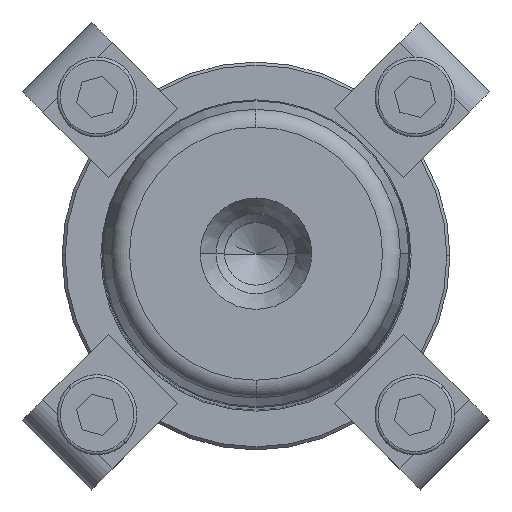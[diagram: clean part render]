
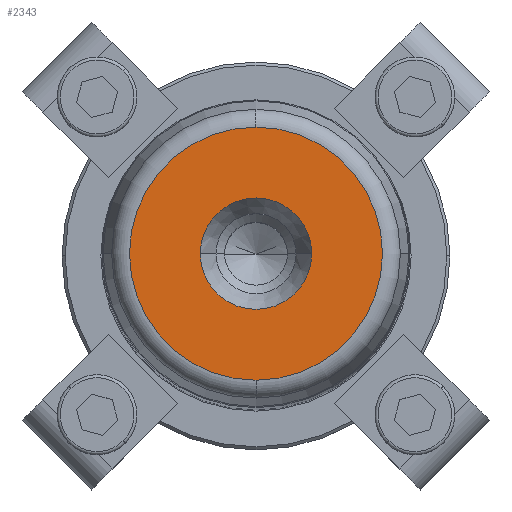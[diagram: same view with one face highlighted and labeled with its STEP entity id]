
A CAD part, top view. The second image highlights one B-rep face of the part: STEP entity #2343.
In plain terms, the highlighted planar face has unit normal (0, 0, 1).
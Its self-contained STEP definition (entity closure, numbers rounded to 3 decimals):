
#431=CARTESIAN_POINT('',(9.05,0.,220.0));
#432=VERTEX_POINT('',#431);
#439=CARTESIAN_POINT('',(-9.05,0.,220.0));
#440=VERTEX_POINT('',#439);
#441=CARTESIAN_POINT('',(0.0,0.,220.0));
#442=DIRECTION('',(0.0,0.0,1.0));
#443=DIRECTION('',(1.0,0.0,0.0));
#444=AXIS2_PLACEMENT_3D('',#441,#442,#443);
#445=CIRCLE('',#444,9.05);
#446=EDGE_CURVE('',#432,#440,#445,.T.);
#463=CARTESIAN_POINT('',(0.0,-20.554,220.0));
#464=VERTEX_POINT('',#463);
#474=CARTESIAN_POINT('',(0.,20.554,220.0));
#475=VERTEX_POINT('',#474);
#476=CARTESIAN_POINT('',(0.0,0.,220.0));
#477=DIRECTION('',(0.0,0.0,1.0));
#478=DIRECTION('',(1.0,0.0,0.0));
#479=AXIS2_PLACEMENT_3D('',#476,#477,#478);
#480=CIRCLE('',#479,20.554);
#481=EDGE_CURVE('',#475,#464,#480,.T.);
#2304=CARTESIAN_POINT('',(20.554,0.,220.0));
#2305=VERTEX_POINT('',#2304);
#2306=CARTESIAN_POINT('',(0.0,0.,220.0));
#2307=DIRECTION('',(0.0,0.0,1.0));
#2308=DIRECTION('',(1.0,0.0,0.0));
#2309=AXIS2_PLACEMENT_3D('',#2306,#2307,#2308);
#2310=CIRCLE('',#2309,20.554);
#2311=EDGE_CURVE('',#2305,#475,#2310,.T.);
#2313=CARTESIAN_POINT('',(0.0,0.,220.0));
#2314=DIRECTION('',(0.0,0.0,1.0));
#2315=DIRECTION('',(1.0,0.0,0.0));
#2316=AXIS2_PLACEMENT_3D('',#2313,#2314,#2315);
#2317=CIRCLE('',#2316,20.554);
#2318=EDGE_CURVE('',#464,#2305,#2317,.T.);
#2323=CARTESIAN_POINT('',(14.802,0.,220.0));
#2324=DIRECTION('',(0.0,0.0,1.0));
#2325=DIRECTION('',(0.0,-1.0,0.0));
#2326=AXIS2_PLACEMENT_3D('',#2323,#2324,#2325);
#2327=PLANE('',#2326);
#2328=ORIENTED_EDGE('',*,*,#2311,.T.);
#2329=ORIENTED_EDGE('',*,*,#481,.T.);
#2330=ORIENTED_EDGE('',*,*,#2318,.T.);
#2331=EDGE_LOOP('',(#2328,#2329,#2330));
#2332=FACE_OUTER_BOUND('',#2331,.T.);
#2333=ORIENTED_EDGE('',*,*,#446,.F.);
#2334=CARTESIAN_POINT('',(0.0,0.,220.0));
#2335=DIRECTION('',(0.0,0.0,1.0));
#2336=DIRECTION('',(1.0,0.0,0.0));
#2337=AXIS2_PLACEMENT_3D('',#2334,#2335,#2336);
#2338=CIRCLE('',#2337,9.05);
#2339=EDGE_CURVE('',#440,#432,#2338,.T.);
#2340=ORIENTED_EDGE('',*,*,#2339,.F.);
#2341=EDGE_LOOP('',(#2333,#2340));
#2342=FACE_BOUND('',#2341,.T.);
#2343=ADVANCED_FACE('',(#2332,#2342),#2327,.T.);
